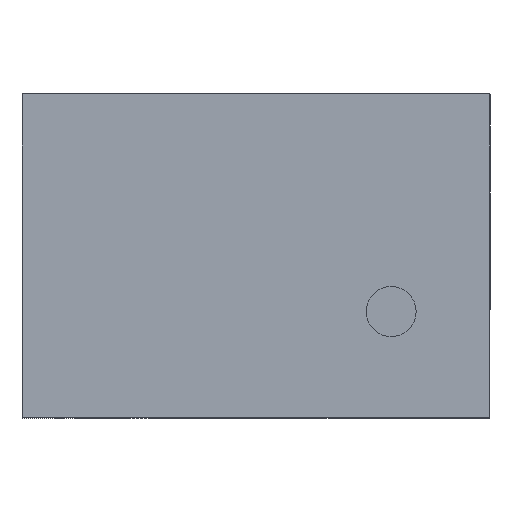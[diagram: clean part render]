
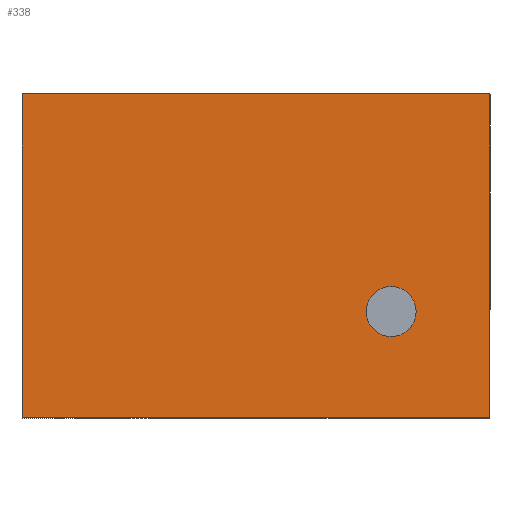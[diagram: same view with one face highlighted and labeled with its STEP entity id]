
A CAD part, top view. The second image highlights one B-rep face of the part: STEP entity #338.
In plain terms, the highlighted planar face has unit normal (0, 0, 1).
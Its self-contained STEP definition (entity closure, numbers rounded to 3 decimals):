
#17 = VERTEX_POINT ( 'NONE', #571 ) ;
#18 = EDGE_CURVE ( 'NONE', #21, #17, #570, .T. ) ;
#21 = VERTEX_POINT ( 'NONE', #614 ) ;
#84 = EDGE_CURVE ( 'NONE', #91, #90, #759, .T. ) ;
#90 = VERTEX_POINT ( 'NONE', #791 ) ;
#91 = VERTEX_POINT ( 'NONE', #790 ) ;
#256 = ORIENTED_EDGE ( 'NONE', *, *, #257, .F. ) ;
#257 = EDGE_CURVE ( 'NONE', #2102, #2098, #1234, .T. ) ;
#284 = EDGE_CURVE ( 'NONE', #90, #21, #1296, .T. ) ;
#332 = EDGE_CURVE ( 'NONE', #17, #91, #1447, .T. ) ;
#338 = ADVANCED_FACE ( 'NONE', ( #1438, #1436 ), #1482, .T. ) ;
#339 = EDGE_LOOP ( 'NONE', ( #256, #523 ) ) ;
#501 = ORIENTED_EDGE ( 'NONE', *, *, #284, .F. ) ;
#502 = ORIENTED_EDGE ( 'NONE', *, *, #84, .F. ) ;
#503 = ORIENTED_EDGE ( 'NONE', *, *, #18, .F. ) ;
#522 = EDGE_LOOP ( 'NONE', ( #503, #501, #502, #525 ) ) ;
#523 = ORIENTED_EDGE ( 'NONE', *, *, #2101, .F. ) ;
#525 = ORIENTED_EDGE ( 'NONE', *, *, #332, .F. ) ;
#567 = DIRECTION ( 'NONE',  ( 0., 1., 0. ) ) ;
#568 = VECTOR ( 'NONE', #567, 1000. ) ;
#569 = CARTESIAN_POINT ( 'NONE',  ( -0.65, 0.45, 0.525 ) ) ;
#570 = LINE ( 'NONE', #569, #568 ) ;
#571 = CARTESIAN_POINT ( 'NONE',  ( -0.65, 0.45, 0.525 ) ) ;
#614 = CARTESIAN_POINT ( 'NONE',  ( -0.65, -0.45, 0.525 ) ) ;
#756 = DIRECTION ( 'NONE',  ( 0., -1., 0. ) ) ;
#757 = VECTOR ( 'NONE', #756, 1000. ) ;
#758 = CARTESIAN_POINT ( 'NONE',  ( 0.65, 0.45, 0.525 ) ) ;
#759 = LINE ( 'NONE', #758, #757 ) ;
#790 = CARTESIAN_POINT ( 'NONE',  ( 0.65, 0.45, 0.525 ) ) ;
#791 = CARTESIAN_POINT ( 'NONE',  ( 0.65, -0.45, 0.525 ) ) ;
#1230 = DIRECTION ( 'NONE',  ( 1., 0., 0. ) ) ;
#1231 = DIRECTION ( 'NONE',  ( 0., 0., 1. ) ) ;
#1232 = CARTESIAN_POINT ( 'NONE',  ( 0.375, -0.155, 0.525 ) ) ;
#1233 = AXIS2_PLACEMENT_3D ( 'NONE', #1232, #1231, #1230 ) ;
#1234 = CIRCLE ( 'NONE', #1233, 0.069 ) ;
#1293 = DIRECTION ( 'NONE',  ( -1., 0., 0. ) ) ;
#1294 = VECTOR ( 'NONE', #1293, 1000. ) ;
#1295 = CARTESIAN_POINT ( 'NONE',  ( -0.65, -0.45, 0.525 ) ) ;
#1296 = LINE ( 'NONE', #1295, #1294 ) ;
#1436 = FACE_OUTER_BOUND ( 'NONE', #522, .T. ) ;
#1438 = FACE_BOUND ( 'NONE', #339, .T. ) ;
#1444 = DIRECTION ( 'NONE',  ( 1., 0., 0. ) ) ;
#1445 = VECTOR ( 'NONE', #1444, 1000. ) ;
#1446 = CARTESIAN_POINT ( 'NONE',  ( -0.65, 0.45, 0.525 ) ) ;
#1447 = LINE ( 'NONE', #1446, #1445 ) ;
#1478 = DIRECTION ( 'NONE',  ( 1., 0., 0. ) ) ;
#1479 = DIRECTION ( 'NONE',  ( 0., 0., 1. ) ) ;
#1480 = CARTESIAN_POINT ( 'NONE',  ( -0.65, -0.45, 0.525 ) ) ;
#1481 = AXIS2_PLACEMENT_3D ( 'NONE', #1480, #1479, #1478 ) ;
#1482 = PLANE ( 'NONE',  #1481 ) ;
#1934 = CIRCLE ( 'NONE', #1992, 0.069 ) ;
#1937 = CARTESIAN_POINT ( 'NONE',  ( 0.306, -0.155, 0.525 ) ) ;
#1988 = CARTESIAN_POINT ( 'NONE',  ( 0.445, -0.155, 0.525 ) ) ;
#1989 = DIRECTION ( 'NONE',  ( 1., 0., 0. ) ) ;
#1990 = DIRECTION ( 'NONE',  ( 0., 0., 1. ) ) ;
#1991 = CARTESIAN_POINT ( 'NONE',  ( 0.375, -0.155, 0.525 ) ) ;
#1992 = AXIS2_PLACEMENT_3D ( 'NONE', #1991, #1990, #1989 ) ;
#2098 = VERTEX_POINT ( 'NONE', #1937 ) ;
#2101 = EDGE_CURVE ( 'NONE', #2098, #2102, #1934, .T. ) ;
#2102 = VERTEX_POINT ( 'NONE', #1988 ) ;
